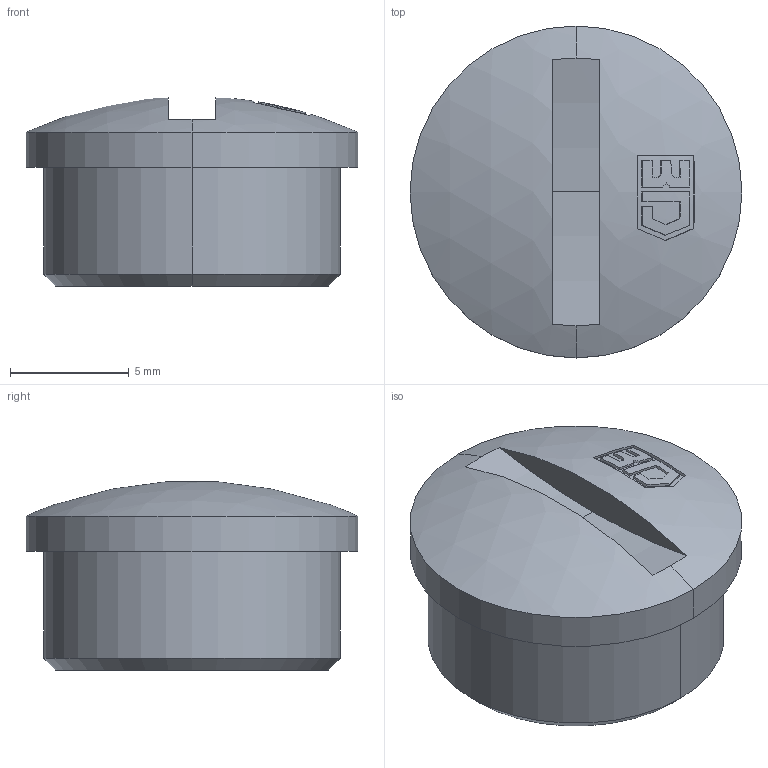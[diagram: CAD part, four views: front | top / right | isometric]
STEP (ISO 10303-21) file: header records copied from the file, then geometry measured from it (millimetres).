
FILE_DESCRIPTION (( 'STEP AP203' ), '1' );
FILE_NAME ('1007 M.STEP', '2005-11-22T08:54:35', ( ' ' ), ( '' ), 'SwSTEP 2.0', 'SolidWorks 2005278', '' );
FILE_SCHEMA (( 'CONFIG_CONTROL_DESIGN' ));
Length unit declared in the file: millimetre
Products named in the file (1): 1007 M
Bounding box: 14 x 14 x 7.93 mm (x, y, z)
Volume: 540.8 mm3; surface area: 747.1 mm2
Topology: 1 solids, 1 shells, 54 faces, 137 edges, 90 vertices
Faces by surface type: plane 39, cylinder 8, sphere 5, cone 2
Entity records: 1819 total; most frequent: CARTESIAN_POINT 383, DIRECTION 313, ORIENTED_EDGE 274, EDGE_CURVE 137, AXIS2_PLACEMENT_3D 135, VERTEX_POINT 90, CIRCLE 80, EDGE_LOOP 59
